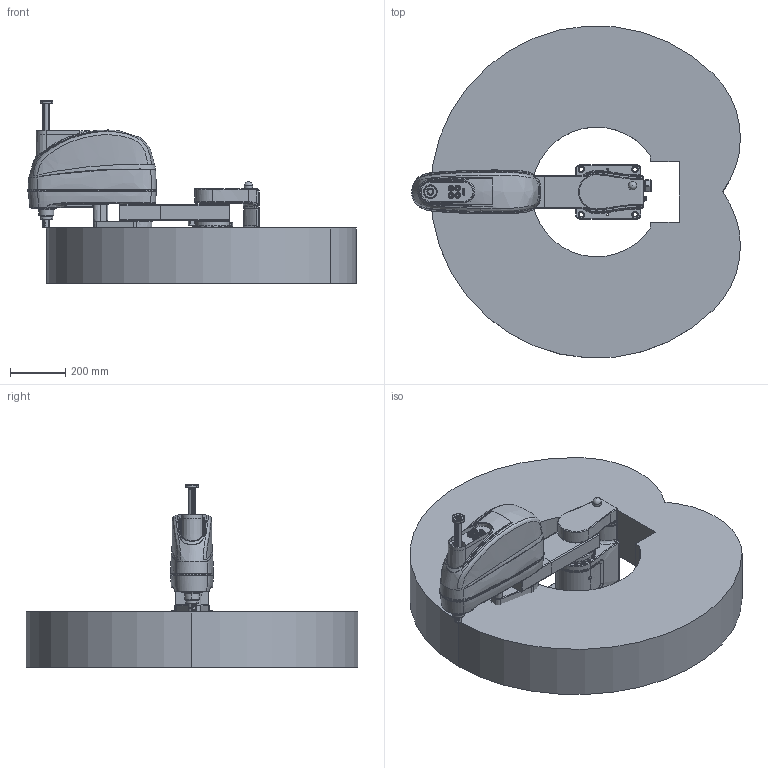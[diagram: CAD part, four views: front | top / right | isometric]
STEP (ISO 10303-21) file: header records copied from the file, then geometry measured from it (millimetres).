
FILE_DESCRIPTION (( 'STEP AP214' ), '1' );
FILE_NAME ('AIR12SC600Z20A 3D model.STP', '2024-02-06T03:27:19', ( 'Windows User' ), ( 'P R C' ), 'SwSTEP 2.0', 'SolidWorks 2011', '' );
FILE_SCHEMA (( 'AUTOMOTIVE_DESIGN' ));
Length unit declared in the file: millimetre
Products named in the file (6): AIR12SC600Z20A 3D model; AIR12SC600Z20A-Base; AIR12SC600Z20A-Upper-arm; AIR12SC600Z20A-Lower-arm; AIR12SC600Z20A-Screw spline; AIR12SC-600Z20A-Working range
Assembly tree (5 placements, depth 2):
  AIR12SC600Z20A 3D model
    AIR12SC-600Z20A-Working range
    AIR12SC600Z20A-Screw spline
    AIR12SC600Z20A-Upper-arm
    AIR12SC600Z20A-Base
    AIR12SC600Z20A-Lower-arm
Bounding box: 1187.42 x 1198.11 x 660 mm (x, y, z)
Volume: 206517214.3 mm3; surface area: 4287922.5 mm2
Topology: 55 solids, 63 shells, 4033 faces, 9894 edges, 6268 vertices
Faces by surface type: plane 1671, cylinder 1300, cone 593, bspline 290, torus 136, sphere 43
Entity records: 194959 total; most frequent: CARTESIAN_POINT 76512, DIRECTION 19717, ORIENTED_EDGE 19498, EDGE_CURVE 9749, AXIS2_PLACEMENT_3D 7475, VERTEX_POINT 6234, LINE 4767, VECTOR 4767
